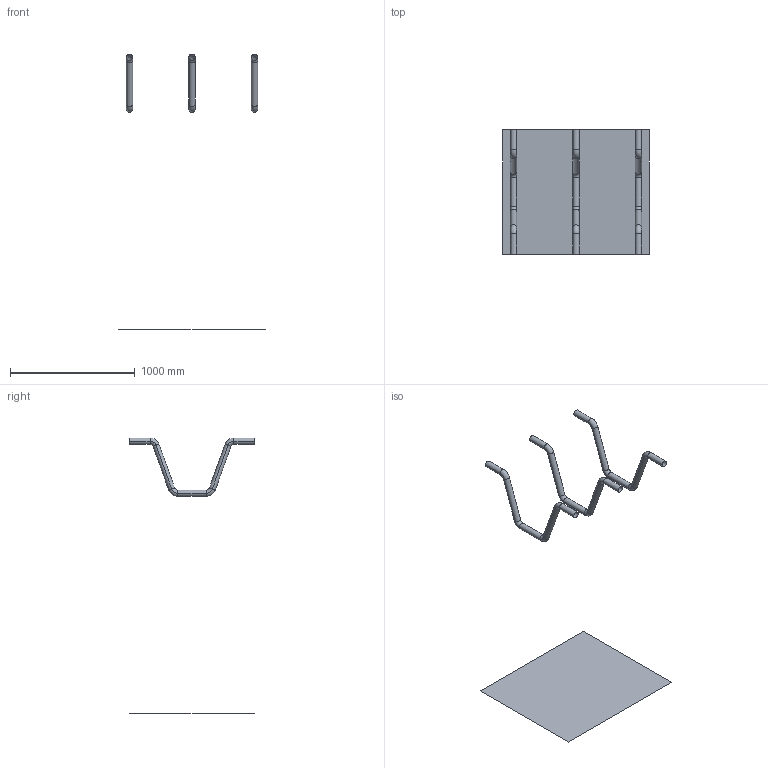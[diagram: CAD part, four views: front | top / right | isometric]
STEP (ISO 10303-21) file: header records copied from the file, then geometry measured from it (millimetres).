
FILE_DESCRIPTION(('CATIA V5 STEP Exchange'),'2;1');
FILE_NAME('C:\_Andres\UNIVERSIDAD\IQS\ASIGNATURAS\DAO\EXF\EXF-16172c\2inicio\Lopez_Triquell_Ej08_v17.stp','2017-03-05T21:54:53+00:00',('none'),('none'),'CATIA Version 5-6 Release 2014 SP1 HF18','CATIA V5 STEP AP203','none');
FILE_SCHEMA(('CONFIG_CONTROL_DESIGN'));
Length unit declared in the file: millimetre
Products named in the file (1): Lopez_Triquell_Ej08_v17
Bounding box: 1170 x 1000 x 2208 mm (x, y, z)
Surface area: 1900518.5 mm2 (no closed solid volume)
Topology: 0 solids, 4 shells, 55 faces, 118 edges, 64 vertices
Faces by surface type: cylinder 30, torus 24, plane 1
Entity records: 1283 total; most frequent: ORIENTED_EDGE 220, CARTESIAN_POINT 208, DIRECTION 168, EDGE_CURVE 118, AXIS2_PLACEMENT_3D 110, CIRCLE 84, VERTEX_POINT 64, ADVANCED_FACE 55
